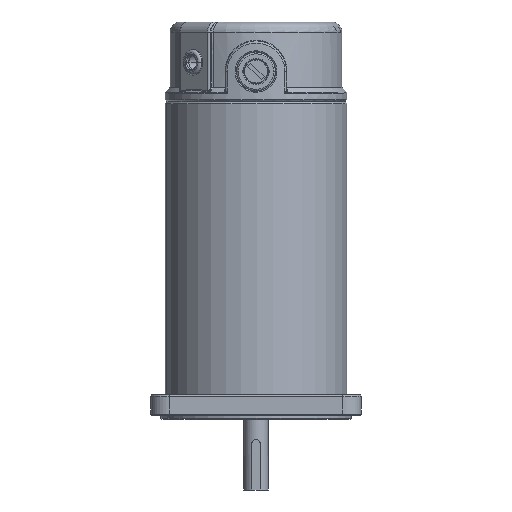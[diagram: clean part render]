
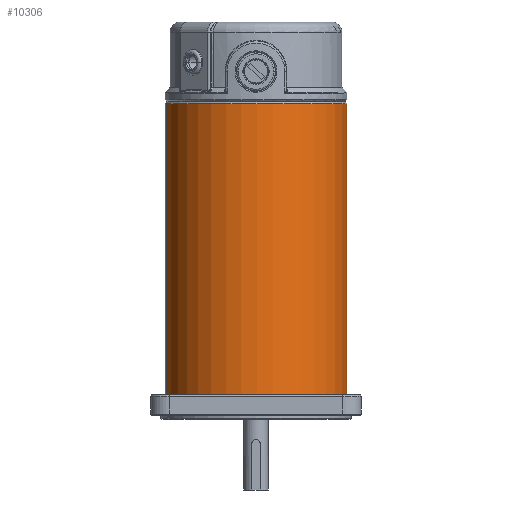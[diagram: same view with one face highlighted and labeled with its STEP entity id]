
A CAD part, front view. The second image highlights one B-rep face of the part: STEP entity #10306.
In plain terms, the highlighted cylindrical face has radius 45 mm (diameter 90 mm), a partial arc.
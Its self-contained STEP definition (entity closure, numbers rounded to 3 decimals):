
#8 = VERTEX_POINT ( 'NONE', #4398 ) ;
#396 = LINE ( 'NONE', #7615, #11341 ) ;
#1259 = AXIS2_PLACEMENT_3D ( 'NONE', #9521, #9650, #2448 ) ;
#1460 = CARTESIAN_POINT ( 'NONE',  ( -12.255, 17.715, 211.174 ) ) ;
#1751 = CARTESIAN_POINT ( 'NONE',  ( -48.164, -34.826, 211.174 ) ) ;
#1940 = AXIS2_PLACEMENT_3D ( 'NONE', #8664, #4614, #4747 ) ;
#1967 = CARTESIAN_POINT ( 'NONE',  ( -100.705, 1.082, 211.174 ) ) ;
#2127 = DIRECTION ( 'NONE',  ( 0., 0., 1. ) ) ;
#2378 = AXIS2_PLACEMENT_3D ( 'NONE', #9786, #7765, #11850 ) ;
#2448 = DIRECTION ( 'NONE',  ( 0.983, 0.185, 0. ) ) ;
#2497 = ORIENTED_EDGE ( 'NONE', *, *, #10632, .T. ) ;
#3171 = VERTEX_POINT ( 'NONE', #1967 ) ;
#3315 = CYLINDRICAL_SURFACE ( 'NONE', #1259, 45. ) ;
#3332 = CARTESIAN_POINT ( 'NONE',  ( -12.255, 17.715, 212.002 ) ) ;
#3614 = VERTEX_POINT ( 'NONE', #1751 ) ;
#4398 = CARTESIAN_POINT ( 'NONE',  ( -100.705, 1.082, 67.002 ) ) ;
#4614 = DIRECTION ( 'NONE',  ( 0., 0., -1. ) ) ;
#4675 = EDGE_CURVE ( 'NONE', #8255, #11933, #8466, .T. ) ;
#4747 = DIRECTION ( 'NONE',  ( 0.983, 0.185, 0. ) ) ;
#4823 = EDGE_CURVE ( 'NONE', #8255, #3614, #9463, .T. ) ;
#5093 = ORIENTED_EDGE ( 'NONE', *, *, #4675, .F. ) ;
#5379 = CARTESIAN_POINT ( 'NONE',  ( -12.255, 17.715, 67.002 ) ) ;
#5800 = VECTOR ( 'NONE', #12892, 1000. ) ;
#6705 = EDGE_CURVE ( 'NONE', #3614, #3171, #11815, .T. ) ;
#6792 = DIRECTION ( 'NONE',  ( 0., 0., -1. ) ) ;
#6968 = ORIENTED_EDGE ( 'NONE', *, *, #9754, .T. ) ;
#7615 = CARTESIAN_POINT ( 'NONE',  ( -100.705, 1.082, 212.002 ) ) ;
#7704 = FACE_OUTER_BOUND ( 'NONE', #13172, .T. ) ;
#7765 = DIRECTION ( 'NONE',  ( 0., 0., -1. ) ) ;
#8255 = VERTEX_POINT ( 'NONE', #1460 ) ;
#8466 = LINE ( 'NONE', #3332, #5800 ) ;
#8525 = AXIS2_PLACEMENT_3D ( 'NONE', #12357, #2127, #11489 ) ;
#8664 = CARTESIAN_POINT ( 'NONE',  ( -56.48, 9.399, 211.174 ) ) ;
#9463 = CIRCLE ( 'NONE', #1940, 45. ) ;
#9521 = CARTESIAN_POINT ( 'NONE',  ( -56.48, 9.399, 212.002 ) ) ;
#9650 = DIRECTION ( 'NONE',  ( 0., 0., -1. ) ) ;
#9754 = EDGE_CURVE ( 'NONE', #8, #11933, #10451, .T. ) ;
#9786 = CARTESIAN_POINT ( 'NONE',  ( -56.48, 9.399, 211.174 ) ) ;
#10282 = ORIENTED_EDGE ( 'NONE', *, *, #4823, .T. ) ;
#10306 = ADVANCED_FACE ( 'NONE', ( #7704 ), #3315, .T. ) ;
#10451 = CIRCLE ( 'NONE', #8525, 45. ) ;
#10632 = EDGE_CURVE ( 'NONE', #3171, #8, #396, .T. ) ;
#11341 = VECTOR ( 'NONE', #6792, 1000. ) ;
#11489 = DIRECTION ( 'NONE',  ( 0.983, 0.185, 0. ) ) ;
#11815 = CIRCLE ( 'NONE', #2378, 45. ) ;
#11850 = DIRECTION ( 'NONE',  ( 0.983, 0.185, 0. ) ) ;
#11933 = VERTEX_POINT ( 'NONE', #5379 ) ;
#12357 = CARTESIAN_POINT ( 'NONE',  ( -56.48, 9.399, 67.002 ) ) ;
#12886 = ORIENTED_EDGE ( 'NONE', *, *, #6705, .T. ) ;
#12892 = DIRECTION ( 'NONE',  ( 0., 0., -1. ) ) ;
#13172 = EDGE_LOOP ( 'NONE', ( #12886, #2497, #6968, #5093, #10282 ) ) ;
